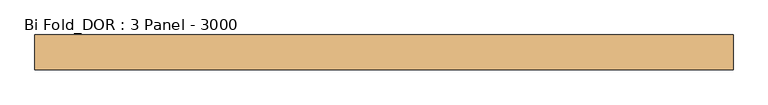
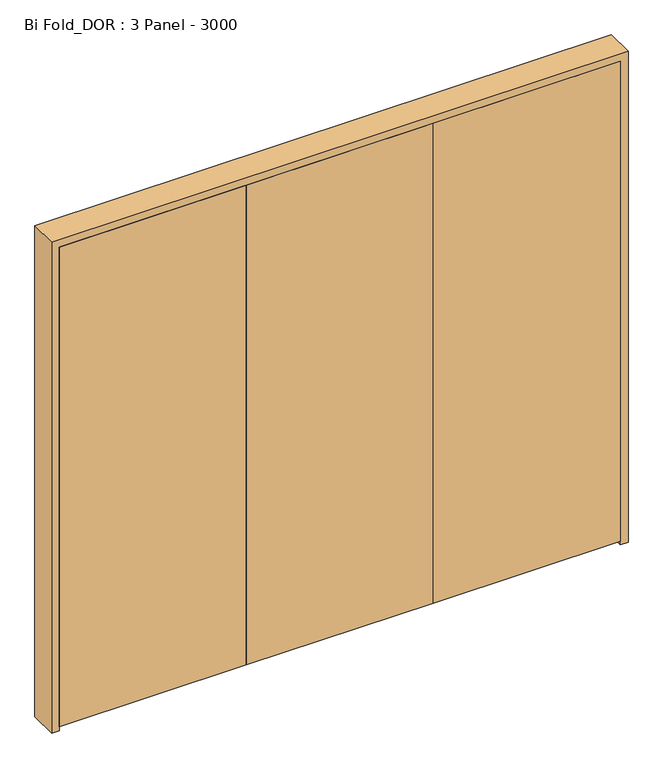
"""IFC4 building model written with IfcOpenShell, lengths in millimetres: door geometry, Bi Fold_DOR : 3 Panel - 3000."""

from ifc_helpers import new_model, si_unit, frame, origin, place, context, project, spatial, polyline, outline, extrude, source, transform, mapped, element, save


def bi_fold_dor_3_panel_3000_24af7ffc(model_context):
    return source(origin(), model_context, "Body", "SweptSolid", [
        extrude(outline(polyline([(1460.0, -35.0), (1460.0, -75.0), (486.6666667, -75.0), (486.6666667, -35.0), (1460.0, -35.0)])), frame((0.0, 0.0, 20.0), z_axis=(0.0, 0.0, 1.0), x_axis=(1.0, 0.0, 0.0)), (0.0, 0.0, 1.0), 2640.0),
        extrude(outline(polyline([(486.6666667, -35.0), (486.6666667, -75.0), (-486.6666667, -75.0), (-486.6666667, -35.0), (486.6666667, -35.0)])), frame((0.0, 0.0, 20.0), z_axis=(0.0, 0.0, 1.0), x_axis=(1.0, 0.0, 0.0)), (0.0, 0.0, 1.0), 2640.0),
        extrude(outline(polyline([(-486.6666667, -35.0), (-486.6666667, -75.0), (-1460.0, -75.0), (-1460.0, -35.0), (-486.6666667, -35.0)])), frame((0.0, 0.0, 20.0), z_axis=(0.0, 0.0, 1.0), x_axis=(1.0, 0.0, 0.0)), (0.0, 0.0, 1.0), 2640.0),
        extrude(outline(polyline([(0.0, 1500.0), (2700.0, 1500.0), (2700.0, -1500.0), (0.0, -1500.0), (0.0, -1460.0), (2660.0, -1460.0), (2660.0, 1460.0), (0.0, 1460.0), (0.0, 1500.0)])), frame((0.0, -75.0, 0.0), z_axis=(0.0, 1.0, 0.0), x_axis=(0.0, 0.0, 1.0)), (0.0, 0.0, 1.0), 150.0),
    ])


if __name__ == "__main__":
    model = new_model("IFC4")
    model_context = context("Model", 3, world=origin())
    ifc_project = project(units=[si_unit("LENGTHUNIT", "METRE", prefix="MILLI")], contexts=[model_context])
    site = spatial("IfcSite", under=ifc_project)
    building = spatial("IfcBuilding", under=site)
    placement = place(None, origin())
    bi_fold_dor_3_panel_3000_shape = bi_fold_dor_3_panel_3000_24af7ffc(model_context)
    element("IfcDoor", 1, ObjectType="Bi Fold_DOR : 3 Panel - 3000", at=placement, inside=building, context=model_context, shape_type="MappedRepresentation", body=[
        mapped(bi_fold_dor_3_panel_3000_shape, transform((0.0, 0.0, 0.0), x_axis=(1.0, 0.0, 0.0), y_axis=(0.0, 1.0, 0.0), z_axis=(0.0, 0.0, 1.0))),
    ])
    save(model, "model.ifc")
